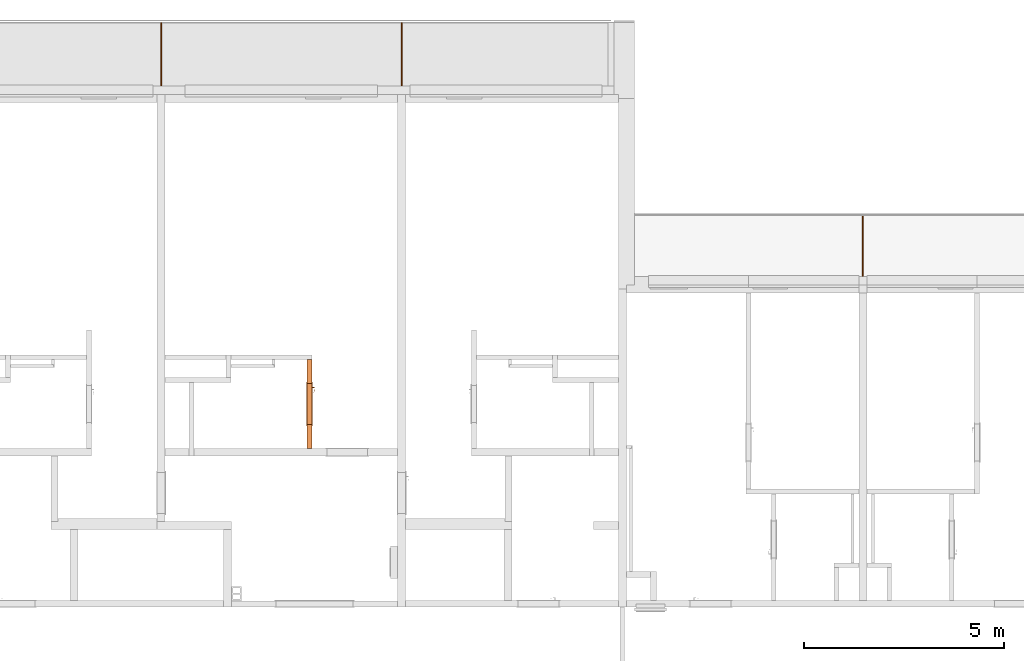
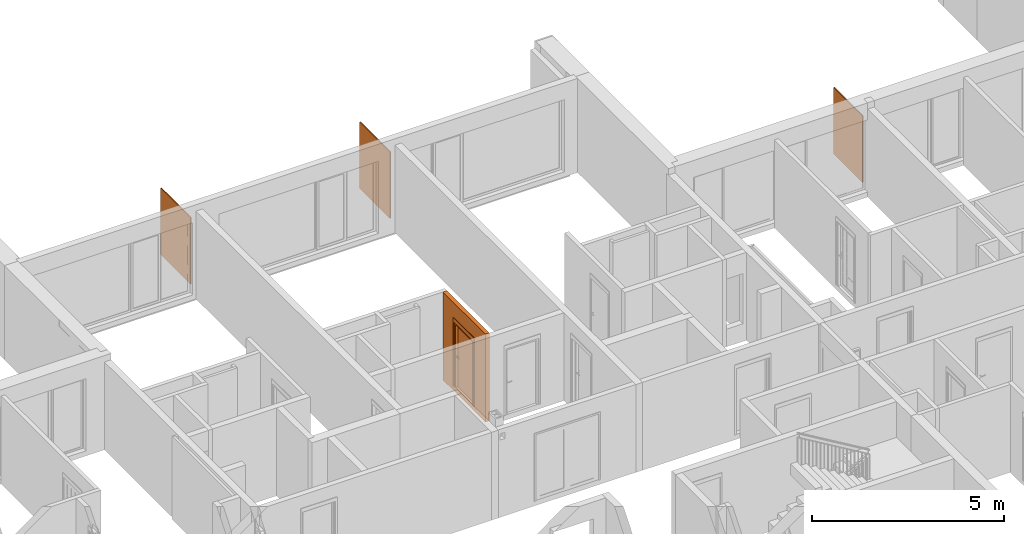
# One storey, part 26 of 64: 5 proxies, 1 opening.
"""IFC2X3 building model written with IfcOpenShell, lengths in millimetres."""

from ifc_helpers import new_model, entity, si_unit, converted_unit, derived_unit, money_unit, direction, frame, origin_with_axes, origin_2d_with_axis, place, context, subcontext, project, spatial, polyline, rectangle, outline, extrude, open_shell, faceted_brep, surface_model, source, transform, mapped, material, type_object, element, fill, save


model = new_model("IFC2X3")

# Units and contexts
model_context = context("Model", 3, precision=0.01, world=origin_with_axes(), true_north=direction((0.34421633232, 0.938890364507)))
body_context = subcontext(model_context, "Body", "Model", "MODEL_VIEW")
ifc_project = project(units=[si_unit("LENGTHUNIT", "METRE", prefix="MILLI"), si_unit("AREAUNIT", "SQUARE_METRE"), si_unit("VOLUMEUNIT", "CUBIC_METRE"), converted_unit("PLANEANGLEUNIT", "DEGREE", entity("IfcPlaneAngleMeasure", 0.0174532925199), si_unit("PLANEANGLEUNIT", "RADIAN"), dimensions=[0, 0, 0, 0, 0, 0, 0]), si_unit("SOLIDANGLEUNIT", "STERADIAN"), money_unit("USD"), converted_unit("TIMEUNIT", "Year", entity("IfcTimeMeasure", 31556926.0), si_unit("TIMEUNIT", "SECOND"), dimensions=[0, 0, 1, 0, 0, 0, 0]), si_unit("MASSUNIT", "GRAM", prefix="KILO"), si_unit("THERMODYNAMICTEMPERATUREUNIT", "DEGREE_CELSIUS"), si_unit("LUMINOUSINTENSITYUNIT", "LUMEN"), si_unit("ENERGYUNIT", "JOULE", prefix="MEGA"), derived_unit("THERMALCONDUCTANCEUNIT", [(si_unit("POWERUNIT", "WATT"), 1), (si_unit("LENGTHUNIT", "METRE"), -1), (si_unit("THERMODYNAMICTEMPERATUREUNIT", "KELVIN"), -1)]), derived_unit("SPECIFICHEATCAPACITYUNIT", [(si_unit("ENERGYUNIT", "JOULE"), 1), (si_unit("MASSUNIT", "GRAM", prefix="KILO"), -1), (si_unit("THERMODYNAMICTEMPERATUREUNIT", "KELVIN"), -1)]), derived_unit("MASSDENSITYUNIT", [(si_unit("MASSUNIT", "GRAM", prefix="KILO"), 1), (si_unit("VOLUMEUNIT", "CUBIC_METRE"), -1)])], contexts=[model_context])

# Site, building, storey
site_placement = place(None, origin_with_axes())
site = spatial("IfcSite", under=ifc_project, at=site_placement, Name="USTRONIE MORSKIE", CompositionType="ELEMENT")
building_placement = place(site_placement, origin_with_axes())
building = spatial("IfcBuilding", under=site, at=building_placement, Name="Budynek", CompositionType="ELEMENT")
storey_placement = place(building_placement, frame((0.0, 0.0, 7000.0), z_axis=(0.0, 0.0, 1.0), x_axis=(1.0, 0.0, 0.0)))
storey = spatial("IfcBuildingStorey", under=building, at=storey_placement, Name="PIĘTRO 2", CompositionType="ELEMENT", Elevation=7000.0)

# Proxies, opening
ifc_material_1 = material(Name="Bloczki silikatowe")
building_element_proxy_type_1 = type_object("IfcBuildingElementProxyType", Name="Bloczki silikatowe 120", PredefinedType="NOTDEFINED")
proxy_1_placement = place(storey_placement, frame((388517.920919, 743001.199021, -160.0), z_axis=(0.0, 0.0, 1.0), x_axis=(0.0, -1.0, 0.0)))
proxy_1 = element("IfcBuildingElementProxy", 1, at=proxy_1_placement, inside=storey, type_object=building_element_proxy_type_1, material=ifc_material_1, Name="SW-04", context=body_context, shape_type="Brep", body=[
    faceted_brep([(59.9999999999, -60.0, 0.0), (59.9999999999, -60.0, 2800.0), (59.9999999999, 60.0, 2800.0), (59.9999999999, 60.0, 0.0), (2279.99998521, -60.0, 0.0), (2279.99998521, -60.0, 2800.0), (2279.99998521, 60.0, 2800.0), (2279.99998521, 60.0, 0.0)], [[[0, 1, 2, 3]], [[4, 5, 1, 0]], [[5, 6, 2, 1]], [[3, 2, 6, 7]], [[0, 3, 7, 4]], [[7, 6, 5, 4]]]),
])
opening_placement = place(proxy_1_placement, frame((1170.0, 0.0, 160.0), z_axis=(0.0, 0.0, 1.0), x_axis=(1.0, 0.0, 0.0)))
opening = element("IfcOpeningElement", 2, at=opening_placement, cuts=proxy_1, Name="Dw.4'", context=body_context, shape_type="SweptSolid", body=[
    extrude(rectangle(XDim=1020.0, YDim=2070.0, at=origin_2d_with_axis()), frame((0.0, 120.0, 1035.0), z_axis=(0.0, -1.0, 0.0), x_axis=(1.0, 0.0, 0.0)), (0.0, 0.0, 1.0), 360.0),
    extrude(rectangle(XDim=1094.0, YDim=2177.0, at=origin_2d_with_axis()), frame((0.0, 60.0, 1088.5), z_axis=(0.0, -1.0, 0.0), x_axis=(1.0, 0.0, 0.0)), (0.0, 0.0, -1.0), 120.0),
    extrude(rectangle(XDim=1094.0, YDim=2177.0, at=origin_2d_with_axis()), frame((0.0, -60.0, 1088.5), z_axis=(0.0, 1.0, 0.0), x_axis=(1.0, 0.0, 0.0)), (0.0, 0.0, -1.0), 120.0),
])
building_element_proxy_type_2 = type_object("IfcBuildingElementProxyType", Name="Drzwi 23", PredefinedType="NOTDEFINED")
shared_shape = source(origin_with_axes(), body_context, "Body", "SurfaceModel", [
    faceted_brep([(-510.0, 0.0, 0.0), (-510.0, 5.0, 0.0), (-485.0, 5.0, 0.0), (-485.0, 0.0, 0.0), (-510.0, 0.0, 2070.0), (-510.0, 5.0, 2070.0), (-485.0, 5.0, 2045.0), (-485.0, 0.0, 2045.0)], [[[0, 1, 2, 3]], [[4, 5, 1, 0]], [[1, 5, 6, 2]], [[3, 2, 6, 7]], [[0, 3, 7, 4]], [[7, 6, 5, 4]]]),
    faceted_brep([(510.0, 0.0, 2070.0), (510.0, 5.0, 2070.0), (485.0, 5.0, 2045.0), (485.0, 0.0, 2045.0), (510.0, 0.0, 0.0), (510.0, 5.0, 0.0), (485.0, 5.0, 0.0), (485.0, 0.0, 0.0)], [[[0, 1, 2, 3]], [[4, 5, 1, 0]], [[1, 5, 6, 2]], [[3, 2, 6, 7]], [[0, 3, 7, 4]], [[7, 6, 5, 4]]]),
    faceted_brep([(-485.0, 0.0, 2045.0), (-485.0, 5.0, 2045.0), (485.0, 5.0, 2045.0), (485.0, 0.0, 2045.0), (-510.0, 0.0, 2070.0), (-510.0, 5.0, 2070.0), (510.0, 5.0, 2070.0), (510.0, 0.0, 2070.0)], [[[0, 1, 2, 3]], [[4, 5, 1, 0]], [[1, 5, 6, 2]], [[3, 2, 6, 7]], [[0, 3, 7, 4]], [[7, 6, 5, 4]]]),
    faceted_brep([(-547.0, 24.0, 0.0), (-497.0, 24.0, 0.0), (-497.0, 5.0, 0.0), (-547.0, 5.0, 0.0), (-547.0, 24.0, 2177.0), (-497.0, 24.0, 2057.0), (-497.0, 5.0, 2057.0), (-547.0, 5.0, 2177.0)], [[[0, 1, 2, 3]], [[0, 4, 5, 1]], [[1, 5, 6, 2]], [[3, 2, 6, 7]], [[4, 0, 3, 7]], [[5, 4, 7, 6]]]),
    faceted_brep([(547.0, 24.0, 2177.0), (497.0, 24.0, 2057.0), (497.0, 5.0, 2057.0), (547.0, 5.0, 2177.0), (547.0, 24.0, 0.0), (497.0, 24.0, 0.0), (497.0, 5.0, 0.0), (547.0, 5.0, 0.0)], [[[0, 1, 2, 3]], [[0, 4, 5, 1]], [[1, 5, 6, 2]], [[3, 2, 6, 7]], [[4, 0, 3, 7]], [[5, 4, 7, 6]]]),
    faceted_brep([(-547.0, 24.0, 2177.0), (-497.0, 24.0, 2057.0), (-497.0, 5.0, 2057.0), (-547.0, 5.0, 2177.0), (547.0, 24.0, 2177.0), (497.0, 24.0, 2057.0), (497.0, 5.0, 2057.0), (547.0, 5.0, 2177.0)], [[[0, 1, 2, 3]], [[0, 4, 5, 1]], [[1, 5, 6, 2]], [[3, 2, 6, 7]], [[4, 0, 3, 7]], [[5, 4, 7, 6]]]),
    faceted_brep([(-547.0, -134.0, 0.0), (-547.0, -115.0, 0.0), (-497.0, -115.0, 0.0), (-497.0, -134.0, 0.0), (-547.0, -134.0, 2177.0), (-547.0, -115.0, 2177.0), (-497.0, -115.0, 2057.0), (-497.0, -134.0, 2057.0)], [[[0, 1, 2, 3]], [[4, 5, 1, 0]], [[1, 5, 6, 2]], [[3, 2, 6, 7]], [[0, 3, 7, 4]], [[7, 6, 5, 4]]]),
    faceted_brep([(547.0, -134.0, 2177.0), (547.0, -115.0, 2177.0), (497.0, -115.0, 2057.0), (497.0, -134.0, 2057.0), (547.0, -134.0, 0.0), (547.0, -115.0, 0.0), (497.0, -115.0, 0.0), (497.0, -134.0, 0.0)], [[[0, 1, 2, 3]], [[4, 5, 1, 0]], [[1, 5, 6, 2]], [[3, 2, 6, 7]], [[0, 3, 7, 4]], [[7, 6, 5, 4]]]),
    faceted_brep([(-547.0, -134.0, 2177.0), (-547.0, -115.0, 2177.0), (-497.0, -115.0, 2057.0), (-497.0, -134.0, 2057.0), (547.0, -134.0, 2177.0), (547.0, -115.0, 2177.0), (497.0, -115.0, 2057.0), (497.0, -134.0, 2057.0)], [[[0, 1, 2, 3]], [[4, 5, 1, 0]], [[1, 5, 6, 2]], [[3, 2, 6, 7]], [[0, 3, 7, 4]], [[7, 6, 5, 4]]]),
    faceted_brep([(-450.0, -40.0, 0.0), (-450.0, -40.0, 2000.0), (-450.0, -115.0, 2000.0), (-450.0, -115.0, 0.0), (-462.0, -40.0, 2000.0), (-462.0, -40.0, 0.0), (-462.0, 0.0, 2000.0), (-510.0, 0.0, 2000.0), (-510.0, -115.0, 2000.0), (-510.0, -115.0, 0.0), (-510.0, 0.0, 0.0), (-462.0, 0.0, 0.0)], [[[0, 1, 2, 3]], [[4, 1, 0, 5]], [[4, 6, 7, 8, 2, 1]], [[3, 2, 8, 9]], [[5, 0, 3, 9, 10, 11]], [[6, 4, 5, 11]], [[6, 11, 10, 7]], [[10, 9, 8, 7]]]),
    faceted_brep([(462.0, -40.0, 2000.0), (450.0, -40.0, 2000.0), (450.0, -115.0, 2000.0), (510.0, -115.0, 2000.0), (510.0, 0.0, 2000.0), (462.0, 0.0, 2000.0), (462.0, -40.0, 0.0), (450.0, -40.0, 0.0), (450.0, -115.0, 0.0), (510.0, -115.0, 0.0), (510.0, 0.0, 0.0), (462.0, 0.0, 0.0)], [[[0, 1, 2, 3, 4, 5]], [[1, 0, 6, 7]], [[1, 7, 8, 2]], [[3, 2, 8, 9]], [[4, 3, 9, 10]], [[11, 5, 4, 10]], [[0, 5, 11, 6]], [[6, 11, 10, 9, 8, 7]]]),
    faceted_brep([(-462.0, 0.0, 2012.0), (-462.0, 0.0, 2000.0), (-510.0, 0.0, 2000.0), (-510.0, 0.0, 2070.0), (510.0, 0.0, 2070.0), (510.0, 0.0, 2000.0), (462.0, 0.0, 2000.0), (462.0, 0.0, 2012.0), (-462.0, -40.0, 2012.0), (-462.0, -40.0, 2000.0), (-450.0, -40.0, 2000.0), (-450.0, -115.0, 2000.0), (-510.0, -115.0, 2000.0), (-510.0, -115.0, 2070.0), (510.0, -115.0, 2070.0), (510.0, -115.0, 2000.0), (462.0, -40.0, 2000.0), (450.0, -115.0, 2000.0), (450.0, -40.0, 2000.0), (462.0, -40.0, 2012.0)], [[[0, 1, 2, 3, 4, 5, 6, 7]], [[1, 0, 8, 9]], [[9, 10, 11, 12, 2, 1]], [[2, 12, 13, 3]], [[3, 13, 14, 4]], [[4, 14, 15, 5]], [[16, 6, 5, 15, 17, 18]], [[7, 6, 16, 19]], [[0, 7, 19, 8]], [[16, 18, 10, 9, 8, 19]], [[10, 18, 17, 11]], [[17, 15, 14, 13, 12, 11]]]),
    faceted_brep([(-440.5, -40.0, 1060.0), (-440.5, -43.0, 1060.0), (-383.5, -43.0, 1060.0), (-383.5, -40.0, 1060.0), (-440.5, -40.0, 870.0), (-440.5, -43.0, 870.0), (-383.5, -43.0, 870.0), (-383.5, -40.0, 870.0)], [[[0, 1, 2, 3]], [[4, 5, 1, 0]], [[1, 5, 6, 2]], [[3, 2, 6, 7]], [[0, 3, 7, 4]], [[7, 6, 5, 4]]]),
    faceted_brep([(-412.0, -104.0, 990.0), (-412.0, -111.0, 990.0), (-417.0, -111.0, 991.339745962), (-417.0, -104.0, 991.339745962), (-387.0, -104.0, 990.0), (-387.0, -111.0, 990.0), (-387.0, -111.0, 1010.0), (-412.0, -111.0, 1010.0), (-417.0, -111.0, 1008.66025404), (-420.660254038, -111.0, 1005.0), (-422.0, -111.0, 1000.0), (-420.660254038, -111.0, 995.0), (-420.660254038, -104.0, 995.0), (-422.0, -104.0, 1000.0), (-420.660254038, -104.0, 1005.0), (-417.0, -104.0, 1008.66025404), (-412.0, -104.0, 1010.0), (-387.0, -104.0, 1010.0)], [[[0, 1, 2, 3]], [[4, 5, 1, 0]], [[1, 5, 6, 7, 8, 9, 10, 11, 2]], [[3, 2, 11, 12]], [[0, 3, 12, 13, 14, 15, 16, 17, 4]], [[17, 6, 5, 4]], [[16, 7, 6, 17]], [[15, 8, 7, 16]], [[14, 9, 8, 15]], [[13, 10, 9, 14]], [[12, 11, 10, 13]]]),
    surface_model("IfcShellBasedSurfaceModel", [(-387.0, -104.0, 1010.0), (-373.596090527, -111.0, 1009.60730092), (-373.901717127, -104.0, 1009.60730092), (-387.0, -111.0, 1010.0), (-346.890283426, -108.663544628, 1008.82190275), (-373.901717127, -104.0, 990.392699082), (-387.0, -104.0, 990.0), (-387.0, -111.0, 990.0), (-373.596090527, -111.0, 990.392699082), (-346.890283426, -108.663544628, 991.178097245), (-347.804837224, -101.716818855, 1008.82190275), (-347.804837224, -101.716818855, 991.178097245), (-320.489735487, -104.008415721, 991.963495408), (-320.489735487, -104.008415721, 1008.03650459), (-322.006256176, -97.1678329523, 1008.03650459), (-322.006256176, -97.1678329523, 991.963495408), (-294.59537082, -97.0700416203, 992.748893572), (-294.59537082, -97.0700416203, 1007.25110643), (-296.702316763, -90.3876628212, 1007.25110643), (-296.702316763, -90.3876628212, 992.748893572), (-286.538795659, -94.1376880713, 993.0), (-286.538795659, -94.1376880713, 1007.0), (-288.829442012, -87.5221707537, 1007.0), (-288.829442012, -87.5221707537, 993.0)], [open_shell([[[0, 1, 2]], [[0, 3, 1]], [[2, 1, 4]], [[0, 2, 5, 6]], [[3, 7, 8, 1]], [[1, 8, 9, 4]], [[2, 4, 10]], [[2, 10, 11, 5]], [[5, 7, 6]], [[5, 8, 7]], [[11, 9, 8]], [[4, 9, 12, 13]], [[10, 4, 13]], [[10, 14, 15, 11]], [[11, 8, 5]], [[15, 9, 11]], [[15, 12, 9]], [[13, 12, 16, 17]], [[10, 13, 14]], [[14, 18, 19, 15]], [[19, 12, 15]], [[19, 16, 12]], [[17, 16, 20, 21]], [[14, 13, 17]], [[14, 17, 18]], [[18, 22, 23, 19]], [[23, 16, 19]], [[23, 20, 16]], [[22, 21, 20, 23]], [[18, 17, 21]], [[18, 21, 22]]])]),
    faceted_brep([(-401.607695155, -53.0, 994.0), (-400.741669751, -43.0, 993.5), (-399.0, -43.0, 1000.0), (-400.0, -53.0, 1000.0), (-406.0, -53.0, 989.607695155), (-405.5, -43.0, 988.741669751), (-412.0, -43.0, 987.0), (-418.5, -43.0, 988.741669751), (-423.258330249, -43.0, 993.5), (-425.0, -43.0, 1000.0), (-423.258330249, -43.0, 1006.5), (-418.5, -43.0, 1011.25833025), (-412.0, -43.0, 1013.0), (-405.5, -43.0, 1011.25833025), (-400.741669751, -43.0, 1006.5), (-401.607695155, -53.0, 1006.0), (-406.0, -53.0, 1010.39230485), (-412.0, -53.0, 1012.0), (-418.0, -53.0, 1010.39230485), (-422.392304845, -53.0, 1006.0), (-424.0, -53.0, 1000.0), (-422.392304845, -53.0, 994.0), (-418.0, -53.0, 989.607695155), (-412.0, -53.0, 988.0)], [[[0, 1, 2, 3]], [[4, 5, 1, 0]], [[2, 1, 5, 6, 7, 8, 9, 10, 11, 12, 13, 14]], [[3, 2, 14, 15]], [[3, 15, 16, 17, 18, 19, 20, 21, 22, 23, 4, 0]], [[23, 6, 5, 4]], [[22, 7, 6, 23]], [[21, 8, 7, 22]], [[20, 9, 8, 21]], [[19, 10, 9, 20]], [[18, 11, 10, 19]], [[17, 12, 11, 18]], [[16, 13, 12, 17]], [[15, 14, 13, 16]]]),
    faceted_brep([(-394.679491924, -47.0, 895.0), (-392.947441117, -43.0, 894.0), (-390.0, -43.0, 905.0), (-392.0, -47.0, 905.0), (-402.0, -47.0, 887.679491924), (-401.0, -43.0, 885.947441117), (-412.0, -43.0, 883.0), (-423.0, -43.0, 885.947441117), (-431.052558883, -43.0, 894.0), (-434.0, -43.0, 905.0), (-431.052558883, -43.0, 916.0), (-423.0, -43.0, 924.052558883), (-412.0, -43.0, 927.0), (-401.0, -43.0, 924.052558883), (-392.947441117, -43.0, 916.0), (-394.679491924, -47.0, 915.0), (-402.0, -47.0, 922.320508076), (-412.0, -47.0, 925.0), (-422.0, -47.0, 922.320508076), (-429.320508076, -47.0, 915.0), (-432.0, -47.0, 905.0), (-429.320508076, -47.0, 895.0), (-422.0, -47.0, 887.679491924), (-412.0, -47.0, 885.0)], [[[0, 1, 2, 3]], [[4, 5, 1, 0]], [[2, 1, 5, 6, 7, 8, 9, 10, 11, 12, 13, 14]], [[3, 2, 14, 15]], [[3, 15, 16, 17, 18, 19, 20, 21, 22, 23, 4, 0]], [[23, 6, 5, 4]], [[22, 7, 6, 23]], [[21, 8, 7, 22]], [[20, 9, 8, 21]], [[19, 10, 9, 20]], [[18, 11, 10, 19]], [[17, 12, 11, 18]], [[16, 13, 12, 17]], [[15, 14, 13, 16]]]),
    faceted_brep([(-407.050252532, -49.0, 909.050252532), (-406.343145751, -47.0, 908.343145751), (-404.0, -47.0, 914.0), (-405.0, -49.0, 914.0), (-412.0, -49.0, 907.0), (-412.0, -47.0, 906.0), (-417.656854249, -47.0, 908.343145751), (-420.0, -47.0, 914.0), (-417.656854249, -47.0, 919.656854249), (-412.0, -47.0, 922.0), (-406.343145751, -47.0, 919.656854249), (-407.050252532, -49.0, 918.949747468), (-412.0, -49.0, 921.0), (-416.949747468, -49.0, 918.949747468), (-419.0, -49.0, 914.0), (-416.949747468, -49.0, 909.050252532)], [[[0, 1, 2, 3]], [[4, 5, 1, 0]], [[2, 1, 5, 6, 7, 8, 9, 10]], [[3, 2, 10, 11]], [[3, 11, 12, 13, 14, 15, 4, 0]], [[15, 6, 5, 4]], [[14, 7, 6, 15]], [[13, 8, 7, 14]], [[12, 9, 8, 13]], [[11, 10, 9, 12]]]),
    faceted_brep([(-412.0, -53.0, 1010.0), (-412.0, -104.0, 1010.0), (-407.0, -104.0, 1008.66025404), (-407.0, -53.0, 1008.66025404), (-417.0, -53.0, 1008.66025404), (-417.0, -104.0, 1008.66025404), (-420.660254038, -104.0, 1005.0), (-422.0, -104.0, 1000.0), (-420.660254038, -104.0, 995.0), (-417.0, -104.0, 991.339745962), (-412.0, -104.0, 990.0), (-407.0, -104.0, 991.339745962), (-403.339745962, -104.0, 995.0), (-402.0, -104.0, 1000.0), (-403.339745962, -104.0, 1005.0), (-403.339745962, -53.0, 1005.0), (-402.0, -53.0, 1000.0), (-403.339745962, -53.0, 995.0), (-407.0, -53.0, 991.339745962), (-412.0, -53.0, 990.0), (-417.0, -53.0, 991.339745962), (-420.660254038, -53.0, 995.0), (-422.0, -53.0, 1000.0), (-420.660254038, -53.0, 1005.0)], [[[0, 1, 2, 3]], [[4, 5, 1, 0]], [[1, 5, 6, 7, 8, 9, 10, 11, 12, 13, 14, 2]], [[3, 2, 14, 15]], [[0, 3, 15, 16, 17, 18, 19, 20, 21, 22, 23, 4]], [[23, 6, 5, 4]], [[22, 7, 6, 23]], [[21, 8, 7, 22]], [[20, 9, 8, 21]], [[19, 10, 9, 20]], [[18, 11, 10, 19]], [[17, 12, 11, 18]], [[16, 13, 12, 17]], [[15, 14, 13, 16]]]),
    faceted_brep([(-440.5, 0.0, 1060.0), (-383.5, 0.0, 1060.0), (-383.5, 3.0, 1060.0), (-440.5, 3.0, 1060.0), (-440.5, 0.0, 870.0), (-383.5, 0.0, 870.0), (-383.5, 3.0, 870.0), (-440.5, 3.0, 870.0)], [[[0, 1, 2, 3]], [[0, 4, 5, 1]], [[1, 5, 6, 2]], [[3, 2, 6, 7]], [[4, 0, 3, 7]], [[5, 4, 7, 6]]]),
    faceted_brep([(-412.0, 64.0, 990.0), (-417.0, 64.0, 991.339745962), (-417.0, 71.0, 991.339745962), (-412.0, 71.0, 990.0), (-387.0, 64.0, 990.0), (-387.0, 64.0, 1010.0), (-412.0, 64.0, 1010.0), (-417.0, 64.0, 1008.66025404), (-420.660254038, 64.0, 1005.0), (-422.0, 64.0, 1000.0), (-420.660254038, 64.0, 995.0), (-420.660254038, 71.0, 995.0), (-422.0, 71.0, 1000.0), (-420.660254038, 71.0, 1005.0), (-417.0, 71.0, 1008.66025404), (-412.0, 71.0, 1010.0), (-387.0, 71.0, 1010.0), (-387.0, 71.0, 990.0)], [[[0, 1, 2, 3]], [[0, 4, 5, 6, 7, 8, 9, 10, 1]], [[1, 10, 11, 2]], [[3, 2, 11, 12, 13, 14, 15, 16, 17]], [[4, 0, 3, 17]], [[5, 4, 17, 16]], [[6, 5, 16, 15]], [[7, 6, 15, 14]], [[8, 7, 14, 13]], [[9, 8, 13, 12]], [[10, 9, 12, 11]]]),
    surface_model("IfcShellBasedSurfaceModel", [(-387.0, 64.0, 1010.0), (-373.901717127, 64.0, 1009.60730092), (-373.596090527, 71.0, 1009.60730092), (-387.0, 64.0, 990.0), (-373.901717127, 64.0, 990.392699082), (-346.890283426, 68.6635446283, 1008.82190275), (-387.0, 71.0, 1010.0), (-387.0, 71.0, 990.0), (-347.804837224, 61.716818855, 991.178097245), (-347.804837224, 61.716818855, 1008.82190275), (-346.890283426, 68.6635446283, 991.178097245), (-373.596090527, 71.0, 990.392699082), (-322.006256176, 57.1678329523, 991.963495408), (-322.006256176, 57.1678329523, 1008.03650459), (-320.489735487, 64.0084157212, 1008.03650459), (-320.489735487, 64.0084157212, 991.963495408), (-296.702316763, 50.3876628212, 992.748893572), (-296.702316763, 50.3876628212, 1007.25110643), (-294.59537082, 57.0700416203, 1007.25110643), (-294.59537082, 57.0700416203, 992.748893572), (-288.829442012, 47.5221707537, 993.0), (-288.829442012, 47.5221707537, 1007.0), (-286.538795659, 54.1376880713, 1007.0), (-286.538795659, 54.1376880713, 993.0)], [open_shell([[[0, 1, 2]], [[0, 3, 4, 1]], [[1, 5, 2]], [[0, 2, 6]], [[4, 3, 7]], [[1, 4, 8, 9]], [[1, 9, 5]], [[2, 5, 10, 11]], [[6, 2, 11, 7]], [[4, 7, 11]], [[8, 4, 11]], [[9, 8, 12, 13]], [[9, 14, 5]], [[5, 14, 15, 10]], [[8, 11, 10]], [[12, 8, 10]], [[13, 12, 16, 17]], [[9, 13, 14]], [[14, 18, 19, 15]], [[12, 10, 15]], [[16, 12, 15]], [[17, 16, 20, 21]], [[13, 17, 18]], [[13, 18, 14]], [[18, 22, 23, 19]], [[16, 15, 19]], [[20, 16, 19]], [[21, 20, 23, 22]], [[17, 21, 22]], [[17, 22, 18]], [[20, 19, 23]]])]),
    faceted_brep([(-401.607695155, 13.0, 994.0), (-400.0, 13.0, 1000.0), (-399.0, 3.0, 1000.0), (-400.741669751, 3.0, 993.5), (-406.0, 13.0, 989.607695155), (-412.0, 13.0, 988.0), (-418.0, 13.0, 989.607695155), (-422.392304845, 13.0, 994.0), (-424.0, 13.0, 1000.0), (-422.392304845, 13.0, 1006.0), (-418.0, 13.0, 1010.39230485), (-412.0, 13.0, 1012.0), (-406.0, 13.0, 1010.39230485), (-401.607695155, 13.0, 1006.0), (-400.741669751, 3.0, 1006.5), (-405.5, 3.0, 1011.25833025), (-412.0, 3.0, 1013.0), (-418.5, 3.0, 1011.25833025), (-423.258330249, 3.0, 1006.5), (-425.0, 3.0, 1000.0), (-423.258330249, 3.0, 993.5), (-418.5, 3.0, 988.741669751), (-412.0, 3.0, 987.0), (-405.5, 3.0, 988.741669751)], [[[0, 1, 2, 3]], [[1, 0, 4, 5, 6, 7, 8, 9, 10, 11, 12, 13]], [[1, 13, 14, 2]], [[2, 14, 15, 16, 17, 18, 19, 20, 21, 22, 23, 3]], [[4, 0, 3, 23]], [[5, 4, 23, 22]], [[6, 5, 22, 21]], [[7, 6, 21, 20]], [[8, 7, 20, 19]], [[9, 8, 19, 18]], [[10, 9, 18, 17]], [[11, 10, 17, 16]], [[12, 11, 16, 15]], [[13, 12, 15, 14]]]),
    faceted_brep([(-394.679491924, 7.0, 895.0), (-392.0, 7.0, 905.0), (-390.0, 3.0, 905.0), (-392.947441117, 3.0, 894.0), (-402.0, 7.0, 887.679491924), (-412.0, 7.0, 885.0), (-422.0, 7.0, 887.679491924), (-429.320508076, 7.0, 895.0), (-432.0, 7.0, 905.0), (-429.320508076, 7.0, 915.0), (-422.0, 7.0, 922.320508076), (-412.0, 7.0, 925.0), (-402.0, 7.0, 922.320508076), (-394.679491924, 7.0, 915.0), (-392.947441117, 3.0, 916.0), (-401.0, 3.0, 924.052558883), (-412.0, 3.0, 927.0), (-423.0, 3.0, 924.052558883), (-431.052558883, 3.0, 916.0), (-434.0, 3.0, 905.0), (-431.052558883, 3.0, 894.0), (-423.0, 3.0, 885.947441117), (-412.0, 3.0, 883.0), (-401.0, 3.0, 885.947441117)], [[[0, 1, 2, 3]], [[1, 0, 4, 5, 6, 7, 8, 9, 10, 11, 12, 13]], [[1, 13, 14, 2]], [[2, 14, 15, 16, 17, 18, 19, 20, 21, 22, 23, 3]], [[4, 0, 3, 23]], [[5, 4, 23, 22]], [[6, 5, 22, 21]], [[7, 6, 21, 20]], [[8, 7, 20, 19]], [[9, 8, 19, 18]], [[10, 9, 18, 17]], [[11, 10, 17, 16]], [[12, 11, 16, 15]], [[13, 12, 15, 14]]]),
    faceted_brep([(-407.050252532, 9.0, 909.050252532), (-405.0, 9.0, 914.0), (-404.0, 7.0, 914.0), (-406.343145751, 7.0, 908.343145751), (-412.0, 9.0, 907.0), (-416.949747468, 9.0, 909.050252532), (-419.0, 9.0, 914.0), (-416.949747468, 9.0, 918.949747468), (-412.0, 9.0, 921.0), (-407.050252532, 9.0, 918.949747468), (-406.343145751, 7.0, 919.656854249), (-412.0, 7.0, 922.0), (-417.656854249, 7.0, 919.656854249), (-420.0, 7.0, 914.0), (-417.656854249, 7.0, 908.343145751), (-412.0, 7.0, 906.0)], [[[0, 1, 2, 3]], [[1, 0, 4, 5, 6, 7, 8, 9]], [[1, 9, 10, 2]], [[2, 10, 11, 12, 13, 14, 15, 3]], [[4, 0, 3, 15]], [[5, 4, 15, 14]], [[6, 5, 14, 13]], [[7, 6, 13, 12]], [[8, 7, 12, 11]], [[9, 8, 11, 10]]]),
    faceted_brep([(-412.0, 13.0, 1010.0), (-407.0, 13.0, 1008.66025404), (-407.0, 64.0, 1008.66025404), (-412.0, 64.0, 1010.0), (-417.0, 13.0, 1008.66025404), (-420.660254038, 13.0, 1005.0), (-422.0, 13.0, 1000.0), (-420.660254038, 13.0, 995.0), (-417.0, 13.0, 991.339745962), (-412.0, 13.0, 990.0), (-407.0, 13.0, 991.339745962), (-403.339745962, 13.0, 995.0), (-402.0, 13.0, 1000.0), (-403.339745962, 13.0, 1005.0), (-403.339745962, 64.0, 1005.0), (-402.0, 64.0, 1000.0), (-403.339745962, 64.0, 995.0), (-407.0, 64.0, 991.339745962), (-412.0, 64.0, 990.0), (-417.0, 64.0, 991.339745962), (-420.660254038, 64.0, 995.0), (-422.0, 64.0, 1000.0), (-420.660254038, 64.0, 1005.0), (-417.0, 64.0, 1008.66025404)], [[[0, 1, 2, 3]], [[0, 4, 5, 6, 7, 8, 9, 10, 11, 12, 13, 1]], [[1, 13, 14, 2]], [[3, 2, 14, 15, 16, 17, 18, 19, 20, 21, 22, 23]], [[4, 0, 3, 23]], [[5, 4, 23, 22]], [[6, 5, 22, 21]], [[7, 6, 21, 20]], [[8, 7, 20, 19]], [[9, 8, 19, 18]], [[10, 9, 18, 17]], [[11, 10, 17, 16]], [[12, 11, 16, 15]], [[13, 12, 15, 14]]]),
    faceted_brep([(462.0, 0.0, 0.0), (462.0, -40.0, 0.0), (-462.0, -40.0, 0.0), (-462.0, 0.0, 0.0), (462.0, 0.0, 2012.0), (462.0, -40.0, 2012.0), (-462.0, -40.0, 2012.0), (-462.0, 0.0, 2012.0)], [[[0, 1, 2, 3]], [[4, 5, 1, 0]], [[1, 5, 6, 2]], [[3, 2, 6, 7]], [[0, 3, 7, 4]], [[7, 6, 5, 4]]]),
])
proxy_2_placement = place(opening_placement, frame((-450.0, 0.0, 0.0), z_axis=(0.0, 0.0, 1.0), x_axis=(1.0, 0.0, 0.0)))
proxy_2 = element("IfcBuildingElementProxy", 3, at=proxy_2_placement, inside=storey, type_object=building_element_proxy_type_2, Name="Dw.4'", context=body_context, shape_type="MappedRepresentation", body=[
    mapped(shared_shape, transform((450.0, 55.0, 0.0))),
])
fill(opening, proxy_2)

# Proxies
ifc_material_2 = material(Name="Woda")
building_element_proxy_type_3 = type_object("IfcBuildingElementProxyType", Name="Woda 30", PredefinedType="NOTDEFINED")
proxy_3_placement = place(storey_placement, frame((402317.920919, 745021.206184, 20.0), z_axis=(0.0, 0.0, 1.0), x_axis=(0.0, 1.0, 0.0)))
element("IfcBuildingElementProxy", 4, at=proxy_3_placement, inside=storey, type_object=building_element_proxy_type_3, material=ifc_material_2, Name="Œciana-007", context=body_context, shape_type="SweptSolid", body=[
    extrude(outline(polyline([(0.0, -15.0), (1500.0, -15.0), (1500.0, 15.0), (0.0, 15.0), (0.0, -15.0)])), origin_with_axes(), (0.0, 0.0, 1.0), 2120.0),
])
proxy_4_placement = place(storey_placement, frame((390817.920919, 749771.199036, 20.0), z_axis=(0.0, 0.0, 1.0), x_axis=(0.0, 1.0, 0.0)))
element("IfcBuildingElementProxy", 5, at=proxy_4_placement, inside=storey, type_object=building_element_proxy_type_3, material=ifc_material_2, Name="Œciana-007", context=body_context, shape_type="SweptSolid", body=[
    extrude(outline(polyline([(0.0, -15.0), (1569.94970077, -15.0), (1569.94970077, 15.0), (0.0, 15.0), (0.0, -15.0)])), origin_with_axes(), (0.0, 0.0, 1.0), 2120.0),
])
proxy_5_placement = place(storey_placement, frame((384817.920919, 749771.199036, 20.0), z_axis=(0.0, 0.0, 1.0), x_axis=(0.0, 1.0, 0.0)))
element("IfcBuildingElementProxy", 6, at=proxy_5_placement, inside=storey, type_object=building_element_proxy_type_3, material=ifc_material_2, Name="Œciana-007", context=body_context, shape_type="SweptSolid", body=[
    extrude(outline(polyline([(0.0, -15.0), (1569.89482814, -15.0), (1569.89482814, 15.0), (0.0, 15.0), (0.0, -15.0)])), origin_with_axes(), (0.0, 0.0, 1.0), 2120.0),
])

save(model, "model.ifc")
